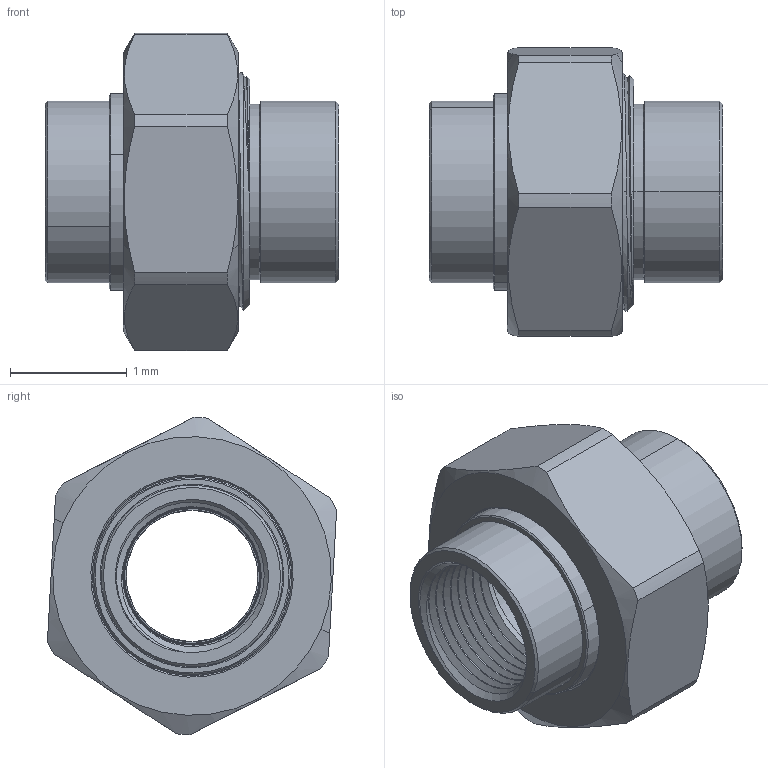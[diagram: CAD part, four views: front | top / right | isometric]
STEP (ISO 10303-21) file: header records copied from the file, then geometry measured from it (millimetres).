
FILE_DESCRIPTION(('Open CASCADE Model'),'2;1');
FILE_NAME('Open CASCADE Shape Model','2022-06-28T15:51:48',('Author'),( 'Open CASCADE'),'Open CASCADE STEP processor 7.3','Open CASCADE 7.3' ,'Unknown');
FILE_SCHEMA(('AUTOMOTIVE_DESIGN { 1 0 10303 214 1 1 1 1 }'));
Length unit declared in the file: millimetre
Products named in the file (6): Open CASCADE STEP translator 7.3 1; Open CASCADE STEP translator 7.3 1.1; Open CASCADE STEP translator 7.3 1.2; Open CASCADE STEP translator 7.3 1.3; Open CASCADE STEP translator 7.3 1.4; Open CASCADE STEP translator 7.3 1.5
Assembly tree (5 placements, depth 2):
  Open CASCADE STEP translator 7.3 1
    Open CASCADE STEP translator 7.3 1.1
    Open CASCADE STEP translator 7.3 1.2
    Open CASCADE STEP translator 7.3 1.3
    Open CASCADE STEP translator 7.3 1.4
    Open CASCADE STEP translator 7.3 1.5
Bounding box: 2.51 x 2.48 x 2.72 mm (x, y, z)
Volume: 5 mm3; surface area: 68.6 mm2
Topology: 5 solids, 5 shells, 169 faces, 429 edges, 276 vertices
Faces by surface type: cone 78, cylinder 54, plane 25, bspline 8, torus 4
Entity records: 39221 total; most frequent: CARTESIAN_POINT 31408, DIRECTION 1190, ORIENTED_EDGE 858, PCURVE 858, DEFINITIONAL_REPRESENTATION 858, LINE 582, VECTOR 582, B_SPLINE_CURVE_WITH_KNOTS 474
